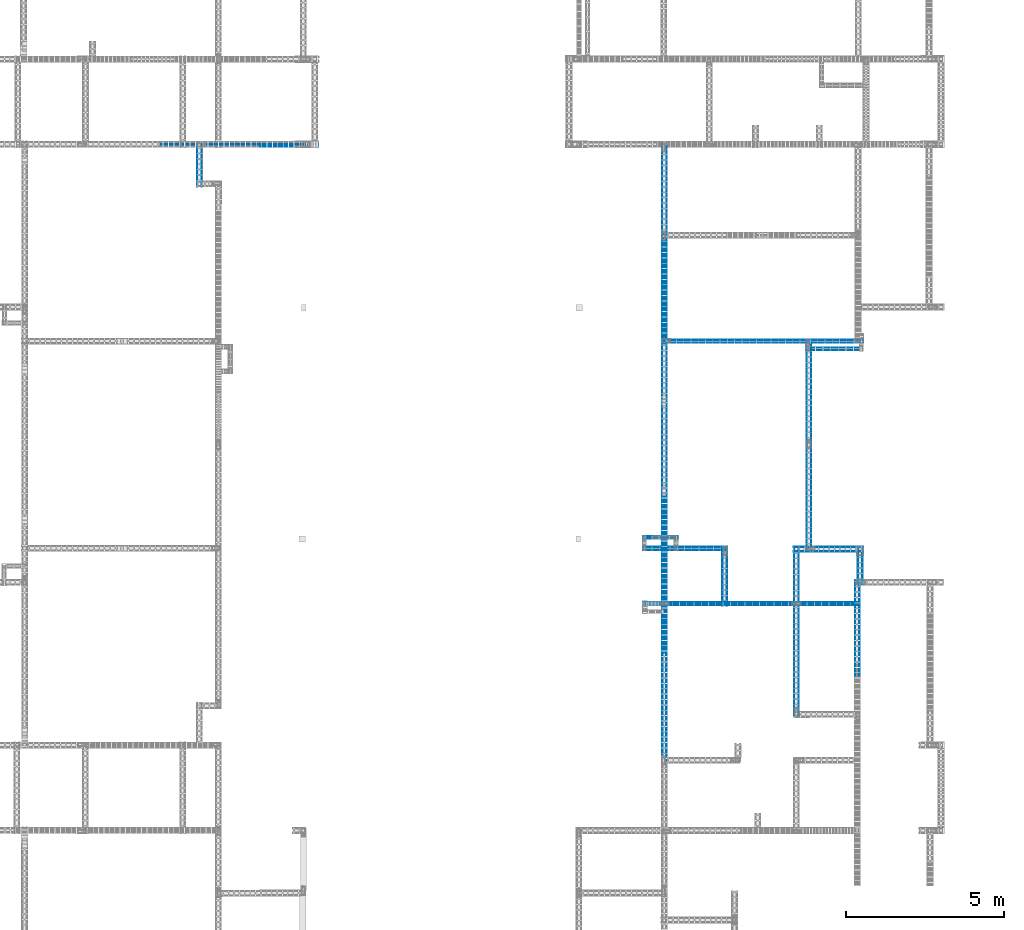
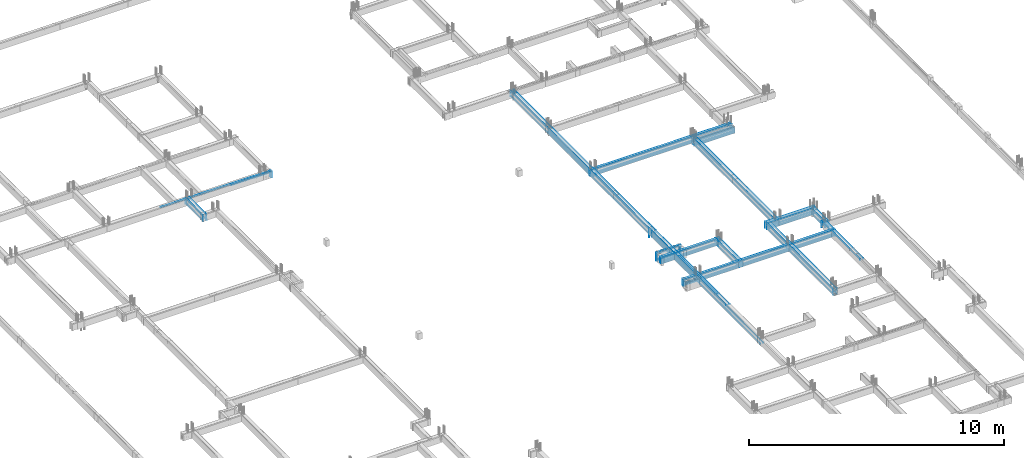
# One storey, part 11 of 150: 58 reinforcing bars.
"""IFC4 building model written with IfcOpenShell, lengths in centimetres."""

import ifcopenshell
import ifcopenshell.guid

model = None  # the IFC model being written
_history = None  # IfcOwnerHistory: only IFC2X3 demands one
_inside = {}  # id of a spatial element -> (the spatial element, [elements in it])
_under = {}  # id of a project, library or spatial element -> (it, [spatial elements below it])
_declared = {}  # id of a project -> (the project, [libraries it declares])
_typed = {}  # id of a type object -> (the type object, [elements of that type])
_made_of = {}  # id of a material, layer set ... -> (it, [elements and type objects made of it])


def new_model(schema):
    """Start an empty IFC model of exactly this schema.

    Asked for "IFC4X3", IfcOpenShell would pick the latest addendum, in which some entities
    have other attributes; the version numbers below select the first issue.
    IFC2X3 requires an IfcOwnerHistory on every rooted entity: one is made here for all.
    """
    global model, _history
    if schema == "IFC4X3":
        model = ifcopenshell.file(schema_version=(4, 3, 0, 0))
    else:
        model = ifcopenshell.file(schema=schema)
    _inside.clear()
    _under.clear()
    _declared.clear()
    _typed.clear()
    _made_of.clear()
    _history = None
    if model.schema == "IFC2X3":
        org = make("IfcOrganization", Name="unknown")
        user = make(
            "IfcPersonAndOrganization",
            ThePerson=make("IfcPerson", FamilyName="unknown"),
            TheOrganization=org,
        )
        app = make(
            "IfcApplication",
            ApplicationDeveloper=org,
            Version="unknown",
            ApplicationFullName="unknown",
            ApplicationIdentifier="unknown",
        )
        _history = make(
            "IfcOwnerHistory",
            OwningUser=user,
            OwningApplication=app,
            ChangeAction="ADDED",
            CreationDate=0,
        )
    return model


def make(cls, **values):
    """One entity of the class cls with the attributes given. An attribute that is None is left unset."""
    return model.create_entity(
        cls, **{name: value for name, value in values.items() if value is not None}
    )


def entity(cls, *values):
    """Any entity or typed value of the class cls, its attributes in the order of the schema. None: left unset."""
    e = model.create_entity(cls)
    for i, value in enumerate(values):
        if value is not None:
            e[i] = value
    return e


def rooted(cls, **values):
    """An entity with a GlobalId (a new one), such as an element, a storey or a relation."""
    return make(cls, GlobalId=ifcopenshell.guid.new(), OwnerHistory=_history, **values)


def si_unit(unit_type, name, prefix=None):
    """IfcSIUnit, for example si_unit("LENGTHUNIT", "METRE", prefix="MILLI")."""
    return make("IfcSIUnit", UnitType=unit_type, Prefix=prefix, Name=name)


def derived_unit(unit_type, elements):
    """IfcDerivedUnit: a product of units, each with its exponent."""
    return make(
        "IfcDerivedUnit",
        Elements=[
            make("IfcDerivedUnitElement", Unit=unit, Exponent=power)
            for unit, power in elements
        ],
        UnitType=unit_type,
    )


def assignment(units):
    """IfcUnitAssignment: the units of a project."""
    return None if units is None else make("IfcUnitAssignment", Units=units)


def point(xyz):
    """IfcCartesianPoint."""
    return None if xyz is None else make("IfcCartesianPoint", Coordinates=xyz)


def direction(xyz):
    """IfcDirection."""
    return None if xyz is None else make("IfcDirection", DirectionRatios=xyz)


def frame(location, z_axis=None, x_axis=None):
    """IfcAxis2Placement3D, a coordinate frame: its origin and axes. An axis left out is left unset."""
    return make(
        "IfcAxis2Placement3D",
        Location=point(location),
        Axis=direction(z_axis),
        RefDirection=direction(x_axis),
    )


def origin_with_axes():
    """The frame at (0, 0, 0) with the z axis (0, 0, 1) and the x axis (1, 0, 0) written out."""
    return frame((0.0, 0.0, 0.0), z_axis=(0.0, 0.0, 1.0), x_axis=(1.0, 0.0, 0.0))


def place(relative_to, where):
    """IfcLocalPlacement: puts the frame where relative to a parent placement (None: the world)."""
    return make(
        "IfcLocalPlacement", PlacementRelTo=relative_to, RelativePlacement=where
    )


def context(
    kind, dimensions, precision=None, world=None, true_north=None, identifier=None
):
    """IfcGeometricRepresentationContext, for example the 3D "Model" context."""
    return make(
        "IfcGeometricRepresentationContext",
        ContextIdentifier=identifier,
        ContextType=kind,
        CoordinateSpaceDimension=dimensions,
        Precision=precision,
        WorldCoordinateSystem=world,
        TrueNorth=true_north,
    )


def project(units=None, contexts=None):
    """IfcProject with its units and contexts."""
    return rooted(
        "IfcProject",
        Name="project",
        RepresentationContexts=contexts,
        UnitsInContext=assignment(units),
    )


def spatial(cls, under=None, at=None, **own):
    """A site, building, storey or space (cls), placed at a placement, below another one or the project."""
    s = rooted(cls, ObjectPlacement=at, **own)
    if under is not None:
        _under.setdefault(under.id(), (under, []))[1].append(s)
    return s


def shape(context_of_items, identifier, shape_type, items):
    """IfcShapeRepresentation: the items that make up one representation, for example the "Body"."""
    return make(
        "IfcShapeRepresentation",
        ContextOfItems=context_of_items,
        RepresentationIdentifier=identifier,
        RepresentationType=shape_type,
        Items=items,
    )


def made_of(thing, what):
    """Note that an element or type object is made of a material, layer set ...; save() writes the relation."""
    if what is not None:
        _made_of.setdefault(what.id(), (what, []))[1].append(thing)
    return thing


def element(
    cls,
    number,
    at=None,
    inside=None,
    cuts=None,
    type_object=None,
    material=None,
    context=None,
    identifier="Body",
    shape_type=None,
    held_by="IfcProductDefinitionShape",
    body=None,
    shapes=None,
    **own,
):
    """One element of the class cls, such as IfcWall. Its Tag is "e" and its number.

    at: its placement. inside: the storey or other place that contains it. cuts: it is an
    opening in that element (IfcRelVoidsElement). A single representation is given by context,
    identifier, shape_type and body (its items); several are given by shapes. held_by: the class
    of the entity that holds the representations. save() writes the other relations.
    """
    e = rooted(cls, Tag="e%d" % number, ObjectPlacement=at, **own)
    if body is not None:
        shapes = [shape(context, identifier, shape_type, body)]
    if shapes is not None:
        e.Representation = make(held_by, Representations=shapes)
    if inside is not None:
        _inside.setdefault(inside.id(), (inside, []))[1].append(e)
    if cuts is not None:
        rooted(
            "IfcRelVoidsElement", RelatingBuildingElement=cuts, RelatedOpeningElement=e
        )
    if type_object is not None:
        _typed.setdefault(type_object.id(), (type_object, []))[1].append(e)
    return made_of(e, material)


def aggregate(whole, parts):
    """IfcRelAggregates: a whole, such as a stair, and the parts it consists of."""
    return rooted("IfcRelAggregates", RelatingObject=whole, RelatedObjects=parts)


def save(model, path):
    """Write the relations noted so far, then the file.

    IfcRelAggregates (storeys below a building ...), IfcRelContainedInSpatialStructure (elements
    in a storey), IfcRelDefinesByType, IfcRelAssociatesMaterial and IfcRelDeclares: one each for
    every whole, place, type object, material and project.
    """
    for whole, parts in _under.values():
        aggregate(whole, parts)
    for where, things in _inside.values():
        rooted(
            "IfcRelContainedInSpatialStructure",
            RelatedElements=things,
            RelatingStructure=where,
        )
    for kind, things in _typed.values():
        rooted("IfcRelDefinesByType", RelatedObjects=things, RelatingType=kind)
    for what, things in _made_of.values():
        rooted("IfcRelAssociatesMaterial", RelatedObjects=things, RelatingMaterial=what)
    for by, libraries in _declared.values():
        rooted("IfcRelDeclares", RelatingContext=by, RelatedDefinitions=libraries)
    model.write(path)


model = new_model("IFC4")

# Units and contexts
model_context = context("Model", 3, precision=1e-05, world=origin_with_axes(), identifier="Body")
ifc_project = project(units=[si_unit("LENGTHUNIT", "METRE", prefix="CENTI"), si_unit("VOLUMEUNIT", "CUBIC_METRE"), si_unit("AREAUNIT", "SQUARE_METRE"), si_unit("POWERUNIT", "WATT"), si_unit("LUMINOUSFLUXUNIT", "LUMEN"), si_unit("ELECTRICCURRENTUNIT", "AMPERE"), si_unit("PRESSUREUNIT", "PASCAL", prefix="KILO"), si_unit("MASSUNIT", "GRAM", prefix="KILO"), si_unit("PLANEANGLEUNIT", "RADIAN"), derived_unit("VOLUMETRICFLOWRATEUNIT", [(si_unit("LENGTHUNIT", "METRE"), 3), (si_unit("TIMEUNIT", "SECOND"), -1)])], contexts=[model_context])

# Site, building, storey
site_placement = place(None, frame((-4000.0, 0.0, 0.0), z_axis=(0.0, 0.0, 1.0), x_axis=(1.0, 0.0, 0.0)))
site = spatial("IfcSite", under=ifc_project, at=site_placement, Name="PADRÃO")
building_placement = place(site_placement, frame((0.0, 0.0, -14.0)))
building = spatial("IfcBuilding", under=site, at=building_placement, Name="CRECHE PRÉ-ESCOLA TIPO 2")
placement = place(building_placement, origin_with_axes())
storey_placement = place(placement, frame((0.0, 0.0, 30.0), z_axis=(0.0, 0.0, 1.0), x_axis=(1.0, 0.0, 0.0)))
storey = spatial("IfcBuildingStorey", under=building, at=storey_placement, Name="VIGA BALDRAME", CompositionType="ELEMENT", Elevation=16.0)

# Reinforcing bars
reinforcing_bar_1_placement = place(storey_placement, frame((1339.27234391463, 3193.02, -2.49531217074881), z_axis=(0.0, 0.0, 1.0), x_axis=(1.0, 0.0, 0.0)))
element("IfcReinforcingBar", 1, at=reinforcing_bar_1_placement, inside=storey, Name="V113 - Longitudinal superior", BarLength=0.0, CrossSectionArea=7.853981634e-05, NominalDiameter=1.0, PredefinedType="MAIN", context=model_context, shape_type="AdvancedSweptSolid", body=[
    entity("IfcSweptDiskSolid", entity("IfcCompositeCurve", [entity("IfcCompositeCurveSegment", "CONTINUOUS", True, entity("IfcPolyline", [entity("IfcCartesianPoint", [-91.5023439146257, 0.0, -0.504687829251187]), entity("IfcCartesianPoint", [90.9976560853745, 0.0, -0.504687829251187])])), entity("IfcCompositeCurveSegment", "CONTINUOUS", True, entity("IfcPolyline", [entity("IfcCartesianPoint", [90.9976560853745, 0.0, -0.504687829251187]), entity("IfcCartesianPoint", [90.9976560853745, 0.0, -26.5046878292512])]))], False), 0.5),
])
reinforcing_bar_2_placement = place(storey_placement, frame((1181.75734391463, 3200.02, -2.49531217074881), z_axis=(0.0, 0.0, 1.0), x_axis=(1.0, 0.0, 0.0)))
element("IfcReinforcingBar", 2, at=reinforcing_bar_2_placement, inside=storey, Name="V113 - Longitudinal superior", BarLength=0.0, CrossSectionArea=7.853981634e-05, NominalDiameter=1.0, PredefinedType="MAIN", context=model_context, shape_type="AdvancedSweptSolid", body=[
    entity("IfcSweptDiskSolid", entity("IfcCompositeCurve", [entity("IfcCompositeCurveSegment", "CONTINUOUS", True, entity("IfcPolyline", [entity("IfcCartesianPoint", [-249.017343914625, 0.0, -0.504687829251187]), entity("IfcCartesianPoint", [248.512656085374, 0.0, -0.504687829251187])])), entity("IfcCompositeCurveSegment", "CONTINUOUS", True, entity("IfcPolyline", [entity("IfcCartesianPoint", [248.512656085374, 0.0, -0.504687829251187]), entity("IfcCartesianPoint", [248.512656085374, 0.0, -26.5046878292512])]))], False), 0.5),
])
for number, where, z_axis, x_axis, name in (
    (3, (2836.76, 2573.145, -26.25), (0.0, 0.0, 1.0), (1.0, 0.0, 0.0), "V122 - Longitudinal inferior"),
    (4, (2836.76, 2581.895, -26.25), (0.0, 0.0, 1.0), (1.0, 0.0, 0.0), "V122 - Longitudinal inferior"),
):
    element("IfcReinforcingBar", number, at=place(storey_placement, frame(where, z_axis=z_axis, x_axis=x_axis)), inside=storey, Name=name, BarLength=0.0, CrossSectionArea=0.000122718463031, NominalDiameter=1.25, PredefinedType="MAIN", context=model_context, shape_type="AdvancedSweptSolid", body=[
        entity("IfcSweptDiskSolid", entity("IfcCompositeCurve", [entity("IfcCompositeCurveSegment", "CONTINUOUS", True, entity("IfcPolyline", [entity("IfcCartesianPoint", [-318.26, 0.0, -0.625]), entity("IfcCartesianPoint", [318.26, 0.0, -0.625])]))], False), 0.625),
    ])
for number, where, z_axis, x_axis, name in (
    (5, (2836.76, 2573.145, -2.49414021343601), (0.0, 0.0, 1.0), (1.0, 0.0, 0.0), "V122 - Longitudinal superior"),
    (6, (2836.76, 2581.895, -2.49414021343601), (0.0, 0.0, 1.0), (1.0, 0.0, 0.0), "V122 - Longitudinal superior"),
):
    element("IfcReinforcingBar", number, at=place(storey_placement, frame(where, z_axis=z_axis, x_axis=x_axis)), inside=storey, Name=name, BarLength=0.0, CrossSectionArea=0.000122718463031, NominalDiameter=1.25, PredefinedType="MAIN", context=model_context, shape_type="AdvancedSweptSolid", body=[
        entity("IfcSweptDiskSolid", entity("IfcCompositeCurve", [entity("IfcCompositeCurveSegment", "CONTINUOUS", True, entity("IfcPolyline", [entity("IfcCartesianPoint", [-317.635, 0.0, -15.005859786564]), entity("IfcCartesianPoint", [-317.635, 0.0, -0.630859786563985])])), entity("IfcCompositeCurveSegment", "CONTINUOUS", True, entity("IfcPolyline", [entity("IfcCartesianPoint", [-317.635, 0.0, -0.630859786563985]), entity("IfcCartesianPoint", [317.635, 0.0, -0.630859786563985])])), entity("IfcCompositeCurveSegment", "CONTINUOUS", True, entity("IfcPolyline", [entity("IfcCartesianPoint", [317.635, 0.0, -0.630859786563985]), entity("IfcCartesianPoint", [317.635, 0.0, -10.630859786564])]))], False), 0.625),
    ])
for number, where, z_axis, x_axis, name in (
    (7, (3063.7618751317, 2557.62, -10.376715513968), (0.0, 0.0, 1.0), (1.0, 0.0, 0.0), "V123 - Longitudinal inferior"),
    (8, (3063.7618751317, 2549.42, -10.376715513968), (0.0, 0.0, 1.0), (1.0, 0.0, 0.0), "V123 - Longitudinal inferior"),
):
    element("IfcReinforcingBar", number, at=place(storey_placement, frame(where, z_axis=z_axis, x_axis=x_axis)), inside=storey, Name=name, BarLength=0.0, CrossSectionArea=5.0265482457e-05, NominalDiameter=0.8, PredefinedType="MAIN", context=model_context, shape_type="AdvancedSweptSolid", body=[
        entity("IfcSweptDiskSolid", entity("IfcCompositeCurve", [entity("IfcCompositeCurveSegment", "CONTINUOUS", True, entity("IfcPolyline", [entity("IfcCartesianPoint", [-89.2618751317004, 0.0, -16.723284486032]), entity("IfcCartesianPoint", [88.8581248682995, 0.0, -16.723284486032])])), entity("IfcCompositeCurveSegment", "CONTINUOUS", True, entity("IfcPolyline", [entity("IfcCartesianPoint", [88.8581248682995, 0.0, -16.723284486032]), entity("IfcCartesianPoint", [88.8581248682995, 0.0, 0.0])]))], False), 0.4),
    ])
for number, where, z_axis, x_axis, name in (
    (9, (2514.0, 1954.25, -17.9876748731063), (0.0, 0.0, 1.0), (1.0, 0.0, 0.0), "V126 - Longitudinal inferior"),
    (10, (2514.0, 1960.45, -17.9876748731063), (0.0, 0.0, 1.0), (1.0, 0.0, 0.0), "V126 - Longitudinal inferior"),
):
    element("IfcReinforcingBar", number, at=place(storey_placement, frame(where, z_axis=z_axis, x_axis=x_axis)), inside=storey, Name=name, BarLength=0.0, CrossSectionArea=5.0265482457e-05, NominalDiameter=0.8, PredefinedType="MAIN", context=model_context, shape_type="AdvancedSweptSolid", body=[
        entity("IfcSweptDiskSolid", entity("IfcCompositeCurve", [entity("IfcCompositeCurveSegment", "CONTINUOUS", True, entity("IfcPolyline", [entity("IfcCartesianPoint", [-54.1, 0.0, 0.0]), entity("IfcCartesianPoint", [-54.1, 0.0, -19.1123251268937])])), entity("IfcCompositeCurveSegment", "CONTINUOUS", True, entity("IfcPolyline", [entity("IfcCartesianPoint", [-54.1, 0.0, -19.1123251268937]), entity("IfcCartesianPoint", [54.1, 0.0, -19.1123251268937])])), entity("IfcCompositeCurveSegment", "CONTINUOUS", True, entity("IfcPolyline", [entity("IfcCartesianPoint", [54.1, 0.0, -19.1123251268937]), entity("IfcCartesianPoint", [54.1, 0.0, 0.0])]))], False), 0.4),
    ])
for number, where, z_axis, x_axis, name in (
    (11, (2514.0, 1954.35, -2.49531217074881), (0.0, 0.0, 1.0), (1.0, 0.0, 0.0), "V126 - Longitudinal superior"),
    (12, (2514.0, 1960.35, -2.49531217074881), (0.0, 0.0, 1.0), (1.0, 0.0, 0.0), "V126 - Longitudinal superior"),
):
    element("IfcReinforcingBar", number, at=place(storey_placement, frame(where, z_axis=z_axis, x_axis=x_axis)), inside=storey, Name=name, BarLength=0.0, CrossSectionArea=7.853981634e-05, NominalDiameter=1.0, PredefinedType="MAIN", context=model_context, shape_type="AdvancedSweptSolid", body=[
        entity("IfcSweptDiskSolid", entity("IfcCompositeCurve", [entity("IfcCompositeCurveSegment", "CONTINUOUS", True, entity("IfcPolyline", [entity("IfcCartesianPoint", [-54.0, 0.0, -36.5046878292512]), entity("IfcCartesianPoint", [-54.0, 0.0, -0.504687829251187])])), entity("IfcCompositeCurveSegment", "CONTINUOUS", True, entity("IfcPolyline", [entity("IfcCartesianPoint", [-54.0, 0.0, -0.504687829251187]), entity("IfcCartesianPoint", [54.0, 0.0, -0.504687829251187])])), entity("IfcCompositeCurveSegment", "CONTINUOUS", True, entity("IfcPolyline", [entity("IfcCartesianPoint", [54.0, 0.0, -0.504687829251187]), entity("IfcCartesianPoint", [54.0, 0.0, -36.5046878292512])]))], False), 0.5),
    ])
for number, where, z_axis, x_axis, name in (
    (13, (2591.6231248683, 1917.92, -9.18219519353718), (0.0, 0.0, 1.0), (1.0, 0.0, 0.0), "V127 - Longitudinal inferior"),
    (14, (2591.6231248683, 1927.12, -9.18219519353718), (0.0, 0.0, 1.0), (1.0, 0.0, 0.0), "V127 - Longitudinal inferior"),
):
    element("IfcReinforcingBar", number, at=place(storey_placement, frame(where, z_axis=z_axis, x_axis=x_axis)), inside=storey, Name=name, BarLength=0.0, CrossSectionArea=5.0265482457e-05, NominalDiameter=0.8, PredefinedType="MAIN", context=model_context, shape_type="AdvancedSweptSolid", body=[
        entity("IfcSweptDiskSolid", entity("IfcCompositeCurve", [entity("IfcCompositeCurveSegment", "CONTINUOUS", True, entity("IfcPolyline", [entity("IfcCartesianPoint", [-131.723124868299, 0.0, 0.0]), entity("IfcCartesianPoint", [-131.723124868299, 0.0, -17.9178048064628])])), entity("IfcCompositeCurveSegment", "CONTINUOUS", True, entity("IfcPolyline", [entity("IfcCartesianPoint", [-131.723124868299, 0.0, -17.9178048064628]), entity("IfcCartesianPoint", [132.1268751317, 0.0, -17.9178048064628])]))], False), 0.4),
    ])
for number, where, z_axis, x_axis, name in (
    (15, (2591.625, 1917.92, -2.49624973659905), (0.0, 0.0, 1.0), (1.0, 0.0, 0.0), "V127 - Longitudinal superior"),
    (16, (2591.625, 1927.12, -2.49624973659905), (0.0, 0.0, 1.0), (1.0, 0.0, 0.0), "V127 - Longitudinal superior"),
):
    element("IfcReinforcingBar", number, at=place(storey_placement, frame(where, z_axis=z_axis, x_axis=x_axis)), inside=storey, Name=name, BarLength=0.0, CrossSectionArea=5.0265482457e-05, NominalDiameter=0.8, PredefinedType="MAIN", context=model_context, shape_type="AdvancedSweptSolid", body=[
        entity("IfcSweptDiskSolid", entity("IfcCompositeCurve", [entity("IfcCompositeCurveSegment", "CONTINUOUS", True, entity("IfcPolyline", [entity("IfcCartesianPoint", [-131.725, 0.0, -26.403750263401]), entity("IfcCartesianPoint", [-131.725, 0.0, -0.403750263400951])])), entity("IfcCompositeCurveSegment", "CONTINUOUS", True, entity("IfcPolyline", [entity("IfcCartesianPoint", [-131.725, 0.0, -0.403750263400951]), entity("IfcCartesianPoint", [131.725, 0.0, -0.403750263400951])])), entity("IfcCompositeCurveSegment", "CONTINUOUS", True, entity("IfcPolyline", [entity("IfcCartesianPoint", [131.725, 0.0, -0.403750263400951]), entity("IfcCartesianPoint", [131.725, 0.0, -22.1920337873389])]))], False), 0.4),
    ])
for number, where, z_axis, x_axis, name in (
    (17, (3045.1281248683, 1912.92, -3.2095935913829), (0.0, 0.0, 1.0), (1.0, 0.0, 0.0), "V128 - Longitudinal inferior"),
    (18, (3045.1281248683, 1927.12, -3.2095935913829), (0.0, 0.0, 1.0), (1.0, 0.0, 0.0), "V128 - Longitudinal inferior"),
):
    element("IfcReinforcingBar", number, at=place(storey_placement, frame(where, z_axis=z_axis, x_axis=x_axis)), inside=storey, Name=name, BarLength=0.0, CrossSectionArea=5.0265482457e-05, NominalDiameter=0.8, PredefinedType="MAIN", context=model_context, shape_type="AdvancedSweptSolid", body=[
        entity("IfcSweptDiskSolid", entity("IfcCompositeCurve", [entity("IfcCompositeCurveSegment", "CONTINUOUS", True, entity("IfcPolyline", [entity("IfcCartesianPoint", [-109.4881248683, 0.0, 0.0]), entity("IfcCartesianPoint", [-109.4881248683, 0.0, -23.8904064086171])])), entity("IfcCompositeCurveSegment", "CONTINUOUS", True, entity("IfcPolyline", [entity("IfcCartesianPoint", [-109.4881248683, 0.0, -23.8904064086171]), entity("IfcCartesianPoint", [109.891875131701, 0.0, -23.8904064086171])]))], False), 0.4),
    ])
for number, where, z_axis, x_axis, name in (
    (19, (3045.13, 1927.12, -2.49624973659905), (0.0, 0.0, 1.0), (1.0, 0.0, 0.0), "V128 - Longitudinal superior"),
    (20, (3045.13, 1912.92, -2.49624973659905), (0.0, 0.0, 1.0), (1.0, 0.0, 0.0), "V128 - Longitudinal superior"),
):
    element("IfcReinforcingBar", number, at=place(storey_placement, frame(where, z_axis=z_axis, x_axis=x_axis)), inside=storey, Name=name, BarLength=0.0, CrossSectionArea=5.0265482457e-05, NominalDiameter=0.8, PredefinedType="MAIN", context=model_context, shape_type="AdvancedSweptSolid", body=[
        entity("IfcSweptDiskSolid", entity("IfcCompositeCurve", [entity("IfcCompositeCurveSegment", "CONTINUOUS", True, entity("IfcPolyline", [entity("IfcCartesianPoint", [-109.49, 0.0, -26.403750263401]), entity("IfcCartesianPoint", [-109.49, 0.0, -0.403750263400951])])), entity("IfcCompositeCurveSegment", "CONTINUOUS", True, entity("IfcPolyline", [entity("IfcCartesianPoint", [-109.49, 0.0, -0.403750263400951]), entity("IfcCartesianPoint", [109.49, 0.0, -0.403750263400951])])), entity("IfcCompositeCurveSegment", "CONTINUOUS", True, entity("IfcPolyline", [entity("IfcCartesianPoint", [109.49, 0.0, -0.403750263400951]), entity("IfcCartesianPoint", [109.49, 0.0, -10.403750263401])]))], False), 0.4),
    ])
for number, where, z_axis, x_axis, name in (
    (21, (2801.74707010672, 1752.215, -7.28895785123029), (0.0, 0.0, 1.0), (1.0, 0.0, 0.0), "V133 - Longitudinal inferior"),
    (22, (2801.74707010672, 1743.465, -7.28895785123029), (0.0, 0.0, 1.0), (1.0, 0.0, 0.0), "V133 - Longitudinal inferior"),
):
    element("IfcReinforcingBar", number, at=place(storey_placement, frame(where, z_axis=z_axis, x_axis=x_axis)), inside=storey, Name=name, BarLength=0.0, CrossSectionArea=0.000122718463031, NominalDiameter=1.25, PredefinedType="MAIN", context=model_context, shape_type="AdvancedSweptSolid", body=[
        entity("IfcSweptDiskSolid", entity("IfcCompositeCurve", [entity("IfcCompositeCurveSegment", "CONTINUOUS", True, entity("IfcPolyline", [entity("IfcCartesianPoint", [-341.622070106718, 0.0, 0.0]), entity("IfcCartesianPoint", [-341.622070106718, 0.0, -19.5860421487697])])), entity("IfcCompositeCurveSegment", "CONTINUOUS", True, entity("IfcPolyline", [entity("IfcCartesianPoint", [-341.622070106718, 0.0, -19.5860421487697]), entity("IfcCartesianPoint", [342.252929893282, 0.0, -19.5860421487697])]))], False), 0.625),
    ])
for number, where, z_axis, x_axis, name in (
    (23, (2801.75, 1752.215, -2.49414021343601), (0.0, 0.0, 1.0), (1.0, 0.0, 0.0), "V133 - Longitudinal superior"),
    (24, (2801.75, 1743.465, -2.49414021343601), (0.0, 0.0, 1.0), (1.0, 0.0, 0.0), "V133 - Longitudinal superior"),
):
    element("IfcReinforcingBar", number, at=place(storey_placement, frame(where, z_axis=z_axis, x_axis=x_axis)), inside=storey, Name=name, BarLength=0.0, CrossSectionArea=0.000122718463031, NominalDiameter=1.25, PredefinedType="MAIN", context=model_context, shape_type="AdvancedSweptSolid", body=[
        entity("IfcSweptDiskSolid", entity("IfcCompositeCurve", [entity("IfcCompositeCurveSegment", "CONTINUOUS", True, entity("IfcPolyline", [entity("IfcCartesianPoint", [-341.625, 0.0, -26.630859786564]), entity("IfcCartesianPoint", [-341.625, 0.0, -0.630859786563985])])), entity("IfcCompositeCurveSegment", "CONTINUOUS", True, entity("IfcPolyline", [entity("IfcCartesianPoint", [-341.625, 0.0, -0.630859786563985]), entity("IfcCartesianPoint", [341.625, 0.0, -0.630859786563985])])), entity("IfcCompositeCurveSegment", "CONTINUOUS", True, entity("IfcPolyline", [entity("IfcCartesianPoint", [341.625, 0.0, -0.630859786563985]), entity("IfcCartesianPoint", [341.625, 0.0, -26.630859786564])]))], False), 0.625),
    ])
for number, where, z_axis, x_axis, name in (
    (25, (1049.1, 3134.745, -26.7), (0.0, 0.0, 1.0), (1.0, 0.0, 0.0), "V181 - Longitudinal inferior"),
    (26, (1063.3, 3134.745, -26.7), (0.0, 0.0, 1.0), (1.0, 0.0, 0.0), "V181 - Longitudinal inferior"),
):
    element("IfcReinforcingBar", number, at=place(storey_placement, frame(where, z_axis=z_axis, x_axis=x_axis)), inside=storey, Name=name, BarLength=0.0, CrossSectionArea=5.0265482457e-05, NominalDiameter=0.8, PredefinedType="MAIN", context=model_context, shape_type="AdvancedSweptSolid", body=[
        entity("IfcSweptDiskSolid", entity("IfcCompositeCurve", [entity("IfcCompositeCurveSegment", "CONTINUOUS", True, entity("IfcPolyline", [entity("IfcCartesianPoint", [0.0, -67.745, -0.4]), entity("IfcCartesianPoint", [0.0, 67.745, -0.4])]))], False), 0.4),
    ])
for number, where, z_axis, x_axis, name in (
    (27, (1049.1, 3134.745, -2.49624973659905), (0.0, 0.0, 1.0), (1.0, 0.0, 0.0), "V181 - Longitudinal superior"),
    (28, (1063.3, 3134.745, -2.49624973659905), (0.0, 0.0, 1.0), (1.0, 0.0, 0.0), "V181 - Longitudinal superior"),
):
    element("IfcReinforcingBar", number, at=place(storey_placement, frame(where, z_axis=z_axis, x_axis=x_axis)), inside=storey, Name=name, BarLength=0.0, CrossSectionArea=5.0265482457e-05, NominalDiameter=0.8, PredefinedType="MAIN", context=model_context, shape_type="AdvancedSweptSolid", body=[
        entity("IfcSweptDiskSolid", entity("IfcCompositeCurve", [entity("IfcCompositeCurveSegment", "CONTINUOUS", True, entity("IfcPolyline", [entity("IfcCartesianPoint", [0.0, -67.345, -24.2941566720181]), entity("IfcCartesianPoint", [0.0, -67.345, -0.403750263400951])])), entity("IfcCompositeCurveSegment", "CONTINUOUS", True, entity("IfcPolyline", [entity("IfcCartesianPoint", [0.0, -67.345, -0.403750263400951]), entity("IfcCartesianPoint", [0.0, 67.345, -0.403750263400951])])), entity("IfcCompositeCurveSegment", "CONTINUOUS", True, entity("IfcPolyline", [entity("IfcCartesianPoint", [0.0, 67.345, -0.403750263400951]), entity("IfcCartesianPoint", [0.0, 67.345, -24.2941566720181])]))], False), 0.4),
    ])
for number, where, z_axis, x_axis, name in (
    (29, (2532.875, 1682.80292989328, -11.875), (0.0, 0.0, 1.0), (1.0, 0.0, 0.0), "V196 - Longitudinal inferior"),
    (30, (2519.125, 1682.80292989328, -11.875), (0.0, 0.0, 1.0), (1.0, 0.0, 0.0), "V196 - Longitudinal inferior"),
):
    element("IfcReinforcingBar", number, at=place(storey_placement, frame(where, z_axis=z_axis, x_axis=x_axis)), inside=storey, Name=name, BarLength=0.0, CrossSectionArea=0.000122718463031, NominalDiameter=1.25, PredefinedType="MAIN", context=model_context, shape_type="AdvancedSweptSolid", body=[
        entity("IfcSweptDiskSolid", entity("IfcCompositeCurve", [entity("IfcCompositeCurveSegment", "CONTINUOUS", True, entity("IfcPolyline", [entity("IfcCartesianPoint", [0.0, -435.722929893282, -15.0]), entity("IfcCartesianPoint", [0.0, 435.092070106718, -15.0])])), entity("IfcCompositeCurveSegment", "CONTINUOUS", True, entity("IfcPolyline", [entity("IfcCartesianPoint", [0.0, 435.092070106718, -15.0]), entity("IfcCartesianPoint", [0.0, 435.092070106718, 0.0])]))], False), 0.625),
    ])
for number, where, z_axis, x_axis, name in (
    (31, (2528.29166666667, 1926.68292989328, -11.875), (0.0, 0.0, 1.0), (1.0, 0.0, 0.0), "V196 - Longitudinal inferior"),
    (32, (2523.70833333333, 1926.68292989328, -11.875), (0.0, 0.0, 1.0), (1.0, 0.0, 0.0), "V196 - Longitudinal inferior"),
):
    element("IfcReinforcingBar", number, at=place(storey_placement, frame(where, z_axis=z_axis, x_axis=x_axis)), inside=storey, Name=name, BarLength=0.0, CrossSectionArea=0.000122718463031, NominalDiameter=1.25, PredefinedType="MAIN", context=model_context, shape_type="AdvancedSweptSolid", body=[
        entity("IfcSweptDiskSolid", entity("IfcCompositeCurve", [entity("IfcCompositeCurveSegment", "CONTINUOUS", True, entity("IfcPolyline", [entity("IfcCartesianPoint", [0.0, -191.842929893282, -15.0]), entity("IfcCartesianPoint", [0.0, 191.212070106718, -15.0])])), entity("IfcCompositeCurveSegment", "CONTINUOUS", True, entity("IfcPolyline", [entity("IfcCartesianPoint", [0.0, 191.212070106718, -15.0]), entity("IfcCartesianPoint", [0.0, 191.212070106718, 0.0])]))], False), 0.625),
    ])
reinforcing_bar_3_placement = place(storey_placement, frame((2526.0, 1742.84, -2.5), z_axis=(0.0, 0.0, 1.0), x_axis=(1.0, 0.0, 0.0)))
element("IfcReinforcingBar", 33, at=reinforcing_bar_3_placement, inside=storey, Name="V196 - Longitudinal superior", BarLength=0.0, CrossSectionArea=0.000122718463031, NominalDiameter=1.25, PredefinedType="MAIN", context=model_context, shape_type="AdvancedSweptSolid", body=[
    entity("IfcSweptDiskSolid", entity("IfcCompositeCurve", [entity("IfcCompositeCurveSegment", "CONTINUOUS", True, entity("IfcPolyline", [entity("IfcCartesianPoint", [0.0, -150.0, -0.625]), entity("IfcCartesianPoint", [0.0, 150.0, -0.625])]))], False), 0.625),
])
for number, where, z_axis, x_axis, name in (
    (34, (2532.875, 1815.08542989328, -2.49414021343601), (0.0, 0.0, 1.0), (1.0, 0.0, 0.0), "V196 - Longitudinal superior"),
    (35, (2519.125, 1815.08542989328, -2.49414021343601), (0.0, 0.0, 1.0), (1.0, 0.0, 0.0), "V196 - Longitudinal superior"),
):
    element("IfcReinforcingBar", number, at=place(storey_placement, frame(where, z_axis=z_axis, x_axis=x_axis)), inside=storey, Name=name, BarLength=0.0, CrossSectionArea=0.000122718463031, NominalDiameter=1.25, PredefinedType="MAIN", context=model_context, shape_type="AdvancedSweptSolid", body=[
        entity("IfcSweptDiskSolid", entity("IfcCompositeCurve", [entity("IfcCompositeCurveSegment", "CONTINUOUS", True, entity("IfcPolyline", [entity("IfcCartesianPoint", [0.0, -303.440429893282, -0.630859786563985]), entity("IfcCartesianPoint", [0.0, 302.809570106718, -0.630859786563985])])), entity("IfcCompositeCurveSegment", "CONTINUOUS", True, entity("IfcPolyline", [entity("IfcCartesianPoint", [0.0, 302.809570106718, -0.630859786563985]), entity("IfcCartesianPoint", [0.0, 302.809570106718, -42.3274849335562])]))], False), 0.625),
    ])
reinforcing_bar_4_placement = place(storey_placement, frame((2518.9, 2647.52, -26.7), z_axis=(0.0, 0.0, 1.0), x_axis=(1.0, 0.0, 0.0)))
element("IfcReinforcingBar", 36, at=reinforcing_bar_4_placement, inside=storey, Name="V198 - Longitudinal inferior", BarLength=0.0, CrossSectionArea=5.0265482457e-05, NominalDiameter=0.8, PredefinedType="MAIN", context=model_context, shape_type="AdvancedSweptSolid", body=[
    entity("IfcSweptDiskSolid", entity("IfcCompositeCurve", [entity("IfcCompositeCurveSegment", "CONTINUOUS", True, entity("IfcPolyline", [entity("IfcCartesianPoint", [0.0, -555.0, -0.4]), entity("IfcCartesianPoint", [0.0, 555.0, -0.4])]))], False), 0.4),
])
reinforcing_bar_5_placement = place(storey_placement, frame((2526.0, 2740.77, -26.7), z_axis=(0.0, 0.0, 1.0), x_axis=(1.0, 0.0, 0.0)))
element("IfcReinforcingBar", 37, at=reinforcing_bar_5_placement, inside=storey, Name="V198 - Longitudinal inferior", BarLength=0.0, CrossSectionArea=5.0265482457e-05, NominalDiameter=0.8, PredefinedType="MAIN", context=model_context, shape_type="AdvancedSweptSolid", body=[
    entity("IfcSweptDiskSolid", entity("IfcCompositeCurve", [entity("IfcCompositeCurveSegment", "CONTINUOUS", True, entity("IfcPolyline", [entity("IfcCartesianPoint", [0.0, -175.25, -0.4]), entity("IfcCartesianPoint", [0.0, 175.25, -0.4])]))], False), 0.4),
])
reinforcing_bar_6_placement = place(storey_placement, frame((2533.1, 2647.52, -26.7), z_axis=(0.0, 0.0, 1.0), x_axis=(1.0, 0.0, 0.0)))
element("IfcReinforcingBar", 38, at=reinforcing_bar_6_placement, inside=storey, Name="V198 - Longitudinal inferior", BarLength=0.0, CrossSectionArea=5.0265482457e-05, NominalDiameter=0.8, PredefinedType="MAIN", context=model_context, shape_type="AdvancedSweptSolid", body=[
    entity("IfcSweptDiskSolid", entity("IfcCompositeCurve", [entity("IfcCompositeCurveSegment", "CONTINUOUS", True, entity("IfcPolyline", [entity("IfcCartesianPoint", [0.0, -555.0, -0.4]), entity("IfcCartesianPoint", [0.0, 555.0, -0.4])]))], False), 0.4),
])
for number, where, z_axis, x_axis, name in (
    (39, (2533.0, 2647.52, -2.49531217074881), (0.0, 0.0, 1.0), (1.0, 0.0, 0.0), "V198 - Longitudinal superior"),
    (40, (2519.0, 2647.52, -2.49531217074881), (0.0, 0.0, 1.0), (1.0, 0.0, 0.0), "V198 - Longitudinal superior"),
):
    element("IfcReinforcingBar", number, at=place(storey_placement, frame(where, z_axis=z_axis, x_axis=x_axis)), inside=storey, Name=name, BarLength=0.0, CrossSectionArea=7.853981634e-05, NominalDiameter=1.0, PredefinedType="MAIN", context=model_context, shape_type="AdvancedSweptSolid", body=[
        entity("IfcSweptDiskSolid", entity("IfcCompositeCurve", [entity("IfcCompositeCurveSegment", "CONTINUOUS", True, entity("IfcPolyline", [entity("IfcCartesianPoint", [0.0, -554.5, -10.5046878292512]), entity("IfcCartesianPoint", [0.0, -554.5, -0.504687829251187])])), entity("IfcCompositeCurveSegment", "CONTINUOUS", True, entity("IfcPolyline", [entity("IfcCartesianPoint", [0.0, -554.5, -0.504687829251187]), entity("IfcCartesianPoint", [0.0, 554.5, -0.504687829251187])])), entity("IfcCompositeCurveSegment", "CONTINUOUS", True, entity("IfcPolyline", [entity("IfcCartesianPoint", [0.0, 554.5, -0.504687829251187]), entity("IfcCartesianPoint", [0.0, 554.5, -10.5046878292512])]))], False), 0.5),
    ])
for number, where, z_axis, x_axis, name in (
    (41, (2723.35, 1834.93, -26.7), (0.0, 0.0, 1.0), (1.0, 0.0, 0.0), "V205 - Longitudinal inferior"),
    (42, (2709.15, 1834.93, -26.7), (0.0, 0.0, 1.0), (1.0, 0.0, 0.0), "V205 - Longitudinal inferior"),
):
    element("IfcReinforcingBar", number, at=place(storey_placement, frame(where, z_axis=z_axis, x_axis=x_axis)), inside=storey, Name=name, BarLength=0.0, CrossSectionArea=5.0265482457e-05, NominalDiameter=0.8, PredefinedType="MAIN", context=model_context, shape_type="AdvancedSweptSolid", body=[
        entity("IfcSweptDiskSolid", entity("IfcCompositeCurve", [entity("IfcCompositeCurveSegment", "CONTINUOUS", True, entity("IfcPolyline", [entity("IfcCartesianPoint", [0.0, -92.59, -0.4]), entity("IfcCartesianPoint", [0.0, 92.59, -0.4])]))], False), 0.4),
    ])
for number, where, z_axis, x_axis, name in (
    (43, (2723.25, 1834.93, -2.49531217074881), (0.0, 0.0, 1.0), (1.0, 0.0, 0.0), "V205 - Longitudinal superior"),
    (44, (2709.25, 1834.93, -2.49531217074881), (0.0, 0.0, 1.0), (1.0, 0.0, 0.0), "V205 - Longitudinal superior"),
):
    element("IfcReinforcingBar", number, at=place(storey_placement, frame(where, z_axis=z_axis, x_axis=x_axis)), inside=storey, Name=name, BarLength=0.0, CrossSectionArea=7.853981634e-05, NominalDiameter=1.0, PredefinedType="MAIN", context=model_context, shape_type="AdvancedSweptSolid", body=[
        entity("IfcSweptDiskSolid", entity("IfcCompositeCurve", [entity("IfcCompositeCurveSegment", "CONTINUOUS", True, entity("IfcPolyline", [entity("IfcCartesianPoint", [0.0, -92.09, -26.5046878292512]), entity("IfcCartesianPoint", [0.0, -92.09, -0.504687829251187])])), entity("IfcCompositeCurveSegment", "CONTINUOUS", True, entity("IfcPolyline", [entity("IfcCartesianPoint", [0.0, -92.09, -0.504687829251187]), entity("IfcCartesianPoint", [0.0, 92.09, -0.504687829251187])])), entity("IfcCompositeCurveSegment", "CONTINUOUS", True, entity("IfcPolyline", [entity("IfcCartesianPoint", [0.0, 92.09, -0.504687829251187]), entity("IfcCartesianPoint", [0.0, 92.09, -12.0046878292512])]))], False), 0.5),
    ])
for number, where, z_axis, x_axis, name in (
    (45, (2950.24, 1660.765, -26.5), (0.0, 0.0, 1.0), (1.0, 0.0, 0.0), "V211 - Longitudinal inferior"),
    (46, (2936.24, 1660.765, -26.5), (0.0, 0.0, 1.0), (1.0, 0.0, 0.0), "V211 - Longitudinal inferior"),
):
    element("IfcReinforcingBar", number, at=place(storey_placement, frame(where, z_axis=z_axis, x_axis=x_axis)), inside=storey, Name=name, BarLength=0.0, CrossSectionArea=7.853981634e-05, NominalDiameter=1.0, PredefinedType="MAIN", context=model_context, shape_type="AdvancedSweptSolid", body=[
        entity("IfcSweptDiskSolid", entity("IfcCompositeCurve", [entity("IfcCompositeCurveSegment", "CONTINUOUS", True, entity("IfcPolyline", [entity("IfcCartesianPoint", [0.0, -267.255, -0.5]), entity("IfcCartesianPoint", [0.0, 267.255, -0.5])]))], False), 0.5),
    ])
for number, where, z_axis, x_axis, name in (
    (47, (2936.24, 1660.765, -2.49531217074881), (0.0, 0.0, 1.0), (1.0, 0.0, 0.0), "V211 - Longitudinal superior"),
    (48, (2950.24, 1660.765, -2.49531217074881), (0.0, 0.0, 1.0), (1.0, 0.0, 0.0), "V211 - Longitudinal superior"),
):
    element("IfcReinforcingBar", number, at=place(storey_placement, frame(where, z_axis=z_axis, x_axis=x_axis)), inside=storey, Name=name, BarLength=0.0, CrossSectionArea=7.853981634e-05, NominalDiameter=1.0, PredefinedType="MAIN", context=model_context, shape_type="AdvancedSweptSolid", body=[
        entity("IfcSweptDiskSolid", entity("IfcCompositeCurve", [entity("IfcCompositeCurveSegment", "CONTINUOUS", True, entity("IfcPolyline", [entity("IfcCartesianPoint", [0.0, -266.755, -10.5046878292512]), entity("IfcCartesianPoint", [0.0, -266.755, -0.504687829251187])])), entity("IfcCompositeCurveSegment", "CONTINUOUS", True, entity("IfcPolyline", [entity("IfcCartesianPoint", [0.0, -266.755, -0.504687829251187]), entity("IfcCartesianPoint", [0.0, 266.755, -0.504687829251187])])), entity("IfcCompositeCurveSegment", "CONTINUOUS", True, entity("IfcPolyline", [entity("IfcCartesianPoint", [0.0, 266.755, -0.504687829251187]), entity("IfcCartesianPoint", [0.0, 266.755, -19.6170129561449])]))], False), 0.5),
    ])
for number, where, z_axis, x_axis, name in (
    (49, (2976.0, 2249.52, -26.5), (0.0, 0.0, 1.0), (1.0, 0.0, 0.0), "V212 - Longitudinal inferior"),
    (50, (2990.0, 2249.52, -26.5), (0.0, 0.0, 1.0), (1.0, 0.0, 0.0), "V212 - Longitudinal inferior"),
):
    element("IfcReinforcingBar", number, at=place(storey_placement, frame(where, z_axis=z_axis, x_axis=x_axis)), inside=storey, Name=name, BarLength=0.0, CrossSectionArea=7.853981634e-05, NominalDiameter=1.0, PredefinedType="MAIN", context=model_context, shape_type="AdvancedSweptSolid", body=[
        entity("IfcSweptDiskSolid", entity("IfcCompositeCurve", [entity("IfcCompositeCurveSegment", "CONTINUOUS", True, entity("IfcPolyline", [entity("IfcCartesianPoint", [0.0, -332.0, -0.5]), entity("IfcCartesianPoint", [0.0, 332.0, -0.5])]))], False), 0.5),
    ])
for number, where, z_axis, x_axis, name in (
    (51, (2990.0, 2249.52, -2.49531217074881), (0.0, 0.0, 1.0), (1.0, 0.0, 0.0), "V212 - Longitudinal superior"),
    (52, (2976.0, 2249.52, -2.49531217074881), (0.0, 0.0, 1.0), (1.0, 0.0, 0.0), "V212 - Longitudinal superior"),
):
    element("IfcReinforcingBar", number, at=place(storey_placement, frame(where, z_axis=z_axis, x_axis=x_axis)), inside=storey, Name=name, BarLength=0.0, CrossSectionArea=7.853981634e-05, NominalDiameter=1.0, PredefinedType="MAIN", context=model_context, shape_type="AdvancedSweptSolid", body=[
        entity("IfcSweptDiskSolid", entity("IfcCompositeCurve", [entity("IfcCompositeCurveSegment", "CONTINUOUS", True, entity("IfcPolyline", [entity("IfcCartesianPoint", [0.0, -331.5, -19.6170129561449]), entity("IfcCartesianPoint", [0.0, -331.5, -0.504687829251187])])), entity("IfcCompositeCurveSegment", "CONTINUOUS", True, entity("IfcPolyline", [entity("IfcCartesianPoint", [0.0, -331.5, -0.504687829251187]), entity("IfcCartesianPoint", [0.0, 331.5, -0.504687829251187])])), entity("IfcCompositeCurveSegment", "CONTINUOUS", True, entity("IfcPolyline", [entity("IfcCartesianPoint", [0.0, 331.5, -0.504687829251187]), entity("IfcCartesianPoint", [0.0, 331.5, -10.5046878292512])]))], False), 0.5),
    ])
for number, where, z_axis, x_axis, name in (
    (53, (3129.125, 1670.58042989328, -2.49414021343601), (0.0, 0.0, 1.0), (1.0, 0.0, 0.0), "V216 - Longitudinal superior"),
    (54, (3142.875, 1670.58042989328, -2.49414021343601), (0.0, 0.0, 1.0), (1.0, 0.0, 0.0), "V216 - Longitudinal superior"),
):
    element("IfcReinforcingBar", number, at=place(storey_placement, frame(where, z_axis=z_axis, x_axis=x_axis)), inside=storey, Name=name, BarLength=0.0, CrossSectionArea=0.000122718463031, NominalDiameter=1.25, PredefinedType="MAIN", context=model_context, shape_type="AdvancedSweptSolid", body=[
        entity("IfcSweptDiskSolid", entity("IfcCompositeCurve", [entity("IfcCompositeCurveSegment", "CONTINUOUS", True, entity("IfcPolyline", [entity("IfcCartesianPoint", [0.0, -150.945429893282, -0.630859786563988]), entity("IfcCartesianPoint", [0.0, 150.314570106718, -0.630859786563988])])), entity("IfcCompositeCurveSegment", "CONTINUOUS", True, entity("IfcPolyline", [entity("IfcCartesianPoint", [0.0, 150.314570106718, -0.630859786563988]), entity("IfcCartesianPoint", [0.0, 150.314570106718, -27.0932276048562])]))], False), 0.625),
    ])
for number, where, z_axis, x_axis, name in (
    (55, (3137.92, 1867.52, -26.7), (0.0, 0.0, 1.0), (1.0, 0.0, 0.0), "V217 - Longitudinal inferior"),
    (56, (3152.12, 1867.52, -26.7), (0.0, 0.0, 1.0), (1.0, 0.0, 0.0), "V217 - Longitudinal inferior"),
):
    element("IfcReinforcingBar", number, at=place(storey_placement, frame(where, z_axis=z_axis, x_axis=x_axis)), inside=storey, Name=name, BarLength=0.0, CrossSectionArea=5.0265482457e-05, NominalDiameter=0.8, PredefinedType="MAIN", context=model_context, shape_type="AdvancedSweptSolid", body=[
        entity("IfcSweptDiskSolid", entity("IfcCompositeCurve", [entity("IfcCompositeCurveSegment", "CONTINUOUS", True, entity("IfcPolyline", [entity("IfcCartesianPoint", [0.0, -59.0, -0.4]), entity("IfcCartesianPoint", [0.0, 59.0, -0.4])]))], False), 0.4),
    ])
for number, where, z_axis, x_axis, name in (
    (57, (3152.12, 1867.52, -2.49624973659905), (0.0, 0.0, 1.0), (1.0, 0.0, 0.0), "V217 - Longitudinal superior"),
    (58, (3137.92, 1867.52, -2.49624973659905), (0.0, 0.0, 1.0), (1.0, 0.0, 0.0), "V217 - Longitudinal superior"),
):
    element("IfcReinforcingBar", number, at=place(storey_placement, frame(where, z_axis=z_axis, x_axis=x_axis)), inside=storey, Name=name, BarLength=0.0, CrossSectionArea=5.0265482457e-05, NominalDiameter=0.8, PredefinedType="MAIN", context=model_context, shape_type="AdvancedSweptSolid", body=[
        entity("IfcSweptDiskSolid", entity("IfcCompositeCurve", [entity("IfcCompositeCurveSegment", "CONTINUOUS", True, entity("IfcPolyline", [entity("IfcCartesianPoint", [0.0, -58.6, -24.2941566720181]), entity("IfcCartesianPoint", [0.0, -58.6, -0.403750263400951])])), entity("IfcCompositeCurveSegment", "CONTINUOUS", True, entity("IfcPolyline", [entity("IfcCartesianPoint", [0.0, -58.6, -0.403750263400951]), entity("IfcCartesianPoint", [0.0, 58.6, -0.403750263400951])])), entity("IfcCompositeCurveSegment", "CONTINUOUS", True, entity("IfcPolyline", [entity("IfcCartesianPoint", [0.0, 58.6, -0.403750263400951]), entity("IfcCartesianPoint", [0.0, 58.6, -10.403750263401])]))], False), 0.4),
    ])

save(model, "model.ifc")
